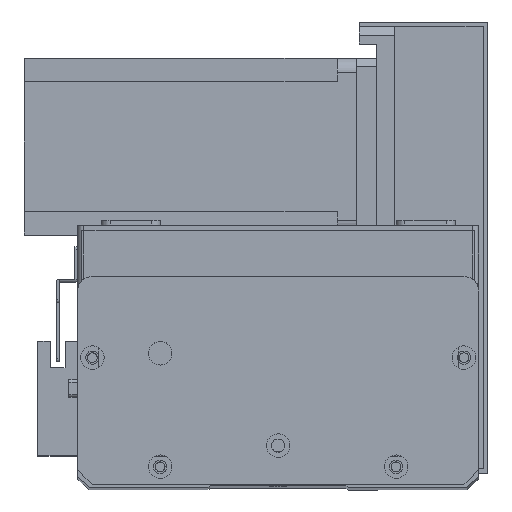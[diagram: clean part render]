
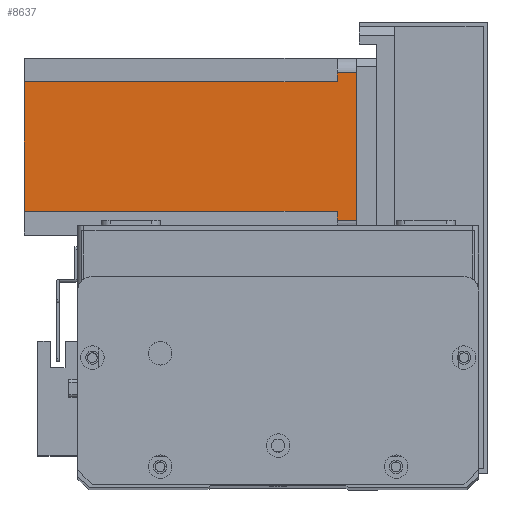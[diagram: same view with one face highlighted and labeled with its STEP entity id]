
A CAD part, top view. The second image highlights one B-rep face of the part: STEP entity #8637.
In plain terms, the highlighted planar face has unit normal (0, 0, 1) as drawn and (0, 1, 0) by its records, which use the part's own axes.
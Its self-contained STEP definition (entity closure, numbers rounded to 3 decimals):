
#393 = VERTEX_POINT ( 'NONE', #21682 ) ;
#850 = DIRECTION ( 'NONE',  ( 1., 0., 0. ) ) ;
#1496 = VECTOR ( 'NONE', #27064, 1000. ) ;
#1541 = AXIS2_PLACEMENT_3D ( 'NONE', #24064, #24215, #23975 ) ;
#2437 = DIRECTION ( 'NONE',  ( 0., 0., -1. ) ) ;
#2534 = ORIENTED_EDGE ( 'NONE', *, *, #14577, .F. ) ;
#3259 = VECTOR ( 'NONE', #21184, 1000. ) ;
#3675 = LINE ( 'NONE', #13649, #26477 ) ;
#4024 = VECTOR ( 'NONE', #850, 1000. ) ;
#4142 = CARTESIAN_POINT ( 'NONE',  ( 0., 60., 0. ) ) ;
#4652 = VERTEX_POINT ( 'NONE', #18264 ) ;
#4831 = DIRECTION ( 'NONE',  ( -1., 0., 0. ) ) ;
#5516 = VERTEX_POINT ( 'NONE', #17689 ) ;
#5840 = LINE ( 'NONE', #15145, #11822 ) ;
#6580 = CARTESIAN_POINT ( 'NONE',  ( 0., 60., -112.5 ) ) ;
#7281 = ORIENTED_EDGE ( 'NONE', *, *, #20321, .T. ) ;
#7371 = CARTESIAN_POINT ( 'NONE',  ( 8., 60., -112.5 ) ) ;
#7604 = LINE ( 'NONE', #7371, #1496 ) ;
#8557 = ORIENTED_EDGE ( 'NONE', *, *, #19240, .F. ) ;
#8612 = VECTOR ( 'NONE', #4831, 1000. ) ;
#8637 = ADVANCED_FACE ( 'NONE', ( #14498 ), #24007, .T. ) ;
#9265 = CARTESIAN_POINT ( 'NONE',  ( 52., 60., -112.5 ) ) ;
#10035 = ORIENTED_EDGE ( 'NONE', *, *, #19505, .F. ) ;
#10121 = DIRECTION ( 'NONE',  ( 0., 0., 1. ) ) ;
#10147 = LINE ( 'NONE', #16505, #4024 ) ;
#11580 = VECTOR ( 'NONE', #10121, 1000. ) ;
#11822 = VECTOR ( 'NONE', #28154, 1000. ) ;
#12492 = VECTOR ( 'NONE', #26332, 1000. ) ;
#13649 = CARTESIAN_POINT ( 'NONE',  ( 55., 60., -112.5 ) ) ;
#13863 = VERTEX_POINT ( 'NONE', #26398 ) ;
#14491 = ORIENTED_EDGE ( 'NONE', *, *, #19922, .T. ) ;
#14498 = FACE_OUTER_BOUND ( 'NONE', #23908, .T. ) ;
#14577 = EDGE_CURVE ( 'NONE', #5516, #13863, #26678, .T. ) ;
#15145 = CARTESIAN_POINT ( 'NONE',  ( 52., 60., -112.5 ) ) ;
#16505 = CARTESIAN_POINT ( 'NONE',  ( 52., 60., -6.5 ) ) ;
#16582 = CARTESIAN_POINT ( 'NONE',  ( 5., 60., -112.5 ) ) ;
#17689 = CARTESIAN_POINT ( 'NONE',  ( 55., 60., 0. ) ) ;
#18061 = LINE ( 'NONE', #16582, #11580 ) ;
#18264 = CARTESIAN_POINT ( 'NONE',  ( 5., 60., -6.5 ) ) ;
#18274 = LINE ( 'NONE', #6580, #12492 ) ;
#18341 = ORIENTED_EDGE ( 'NONE', *, *, #20127, .F. ) ;
#18996 = CARTESIAN_POINT ( 'NONE',  ( 8., 60., -6.5 ) ) ;
#19012 = VERTEX_POINT ( 'NONE', #9265 ) ;
#19027 = EDGE_CURVE ( 'NONE', #5516, #27005, #3675, .T. ) ;
#19240 = EDGE_CURVE ( 'NONE', #393, #27005, #10147, .T. ) ;
#19505 = EDGE_CURVE ( 'NONE', #19012, #393, #5840, .T. ) ;
#19922 = EDGE_CURVE ( 'NONE', #19012, #28139, #18274, .T. ) ;
#20127 = EDGE_CURVE ( 'NONE', #21860, #28139, #7604, .T. ) ;
#20321 = EDGE_CURVE ( 'NONE', #21860, #4652, #21669, .T. ) ;
#20916 = EDGE_CURVE ( 'NONE', #4652, #13863, #18061, .T. ) ;
#21184 = DIRECTION ( 'NONE',  ( -1., 0., 0. ) ) ;
#21669 = LINE ( 'NONE', #18996, #3259 ) ;
#21682 = CARTESIAN_POINT ( 'NONE',  ( 52., 60., -6.5 ) ) ;
#21860 = VERTEX_POINT ( 'NONE', #22635 ) ;
#22635 = CARTESIAN_POINT ( 'NONE',  ( 8., 60., -6.5 ) ) ;
#23454 = ORIENTED_EDGE ( 'NONE', *, *, #20916, .T. ) ;
#23908 = EDGE_LOOP ( 'NONE', ( #2534, #27126, #8557, #10035, #14491, #18341, #7281, #23454 ) ) ;
#23975 = DIRECTION ( 'NONE',  ( 0., 0., 1. ) ) ;
#24007 = PLANE ( 'NONE',  #1541 ) ;
#24064 = CARTESIAN_POINT ( 'NONE',  ( 0., 60., -112.5 ) ) ;
#24215 = DIRECTION ( 'NONE',  ( 0., 1., 0. ) ) ;
#26332 = DIRECTION ( 'NONE',  ( -1., 0., 0. ) ) ;
#26392 = CARTESIAN_POINT ( 'NONE',  ( 55., 60., -6.5 ) ) ;
#26398 = CARTESIAN_POINT ( 'NONE',  ( 5., 60., 0. ) ) ;
#26477 = VECTOR ( 'NONE', #2437, 1000. ) ;
#26678 = LINE ( 'NONE', #4142, #8612 ) ;
#26825 = CARTESIAN_POINT ( 'NONE',  ( 8., 60., -112.5 ) ) ;
#27005 = VERTEX_POINT ( 'NONE', #26392 ) ;
#27064 = DIRECTION ( 'NONE',  ( 0., 0., -1. ) ) ;
#27126 = ORIENTED_EDGE ( 'NONE', *, *, #19027, .T. ) ;
#28139 = VERTEX_POINT ( 'NONE', #26825 ) ;
#28154 = DIRECTION ( 'NONE',  ( 0., 0., 1. ) ) ;
